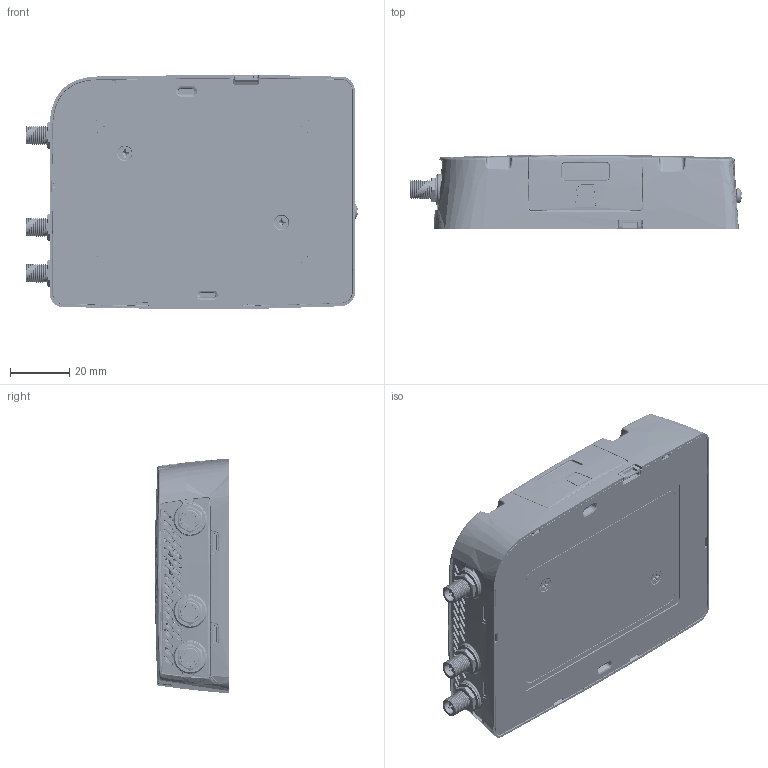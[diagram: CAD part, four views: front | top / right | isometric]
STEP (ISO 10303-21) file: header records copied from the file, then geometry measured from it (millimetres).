
FILE_DESCRIPTION((''),'2;1');
FILE_NAME('MP30-RV40-TOPASSEMBLY_ASM','2018-09-17T',('smar'),('Sierra Wireless'),'CREO PARAMETRIC BY PTC INC, 2018070','CREO PARAMETRIC BY PTC INC, 2018070','');
FILE_SCHEMA(('AUTOMOTIVE_DESIGN { 1 0 10303 214 1 1 1 1 }'));
Products named in the file (24): 5302644; 5302642; 1204386_ASM; 5303078; LX40_REV5_JUNE29; LX40_REV5_JUNE29_ASM; AIRLINER-20-109HS-T; MOLEX-SD43045; 1710731; M-RJHSE-X08X-REVT1; TL4105AF160QG; PCB-12; 5302636_REV5_JUNE29_ASM; 5302643; M2_5_INSERT; 5302643_ASM; 5303205; M2_5X4FLATHEADSCREW; 1204461_ASM; 5302916; 5303790; SMA_LOCK_WASHER; SMA_HEX_NUT; MP30-RV40-TOPASSEMBLY_ASM
Assembly tree (30 placements, depth 4):
  MP30-RV40-TOPASSEMBLY_ASM
    1204386_ASM
      5302644
      5302642
    5303078
    5302636_REV5_JUNE29_ASM
      LX40_REV5_JUNE29_ASM
        LX40_REV5_JUNE29
      AIRLINER-20-109HS-T  x3
      MOLEX-SD43045
      1710731
      M-RJHSE-X08X-REVT1
      TL4105AF160QG
      PCB-12
    1204461_ASM
      5302643_ASM
        5302643
        M2_5_INSERT
      5303205
      M2_5X4FLATHEADSCREW  x2
    5302916
    5303790
    SMA_LOCK_WASHER  x3
    SMA_HEX_NUT  x3
Bounding box: 112.04 x 25.02 x 79.19 mm (x, y, z)
Volume: 63089.2 mm3; surface area: 85008.6 mm2
Topology: 25 solids, 25 shells, 11722 faces, 32165 edges, 20471 vertices
Faces by surface type: plane 6103, bspline 2877, cylinder 1947, cone 425, extrusion 185, sphere 114, torus 71
Entity records: 959164 total; most frequent: CARTESIAN_POINT 660236, ORIENTED_EDGE 60004, DIRECTION 37272, EDGE_CURVE 30002, VERTEX_POINT 19164, VECTOR 14410, LINE 14225, B_SPLINE_CURVE_WITH_KNOTS 12437
